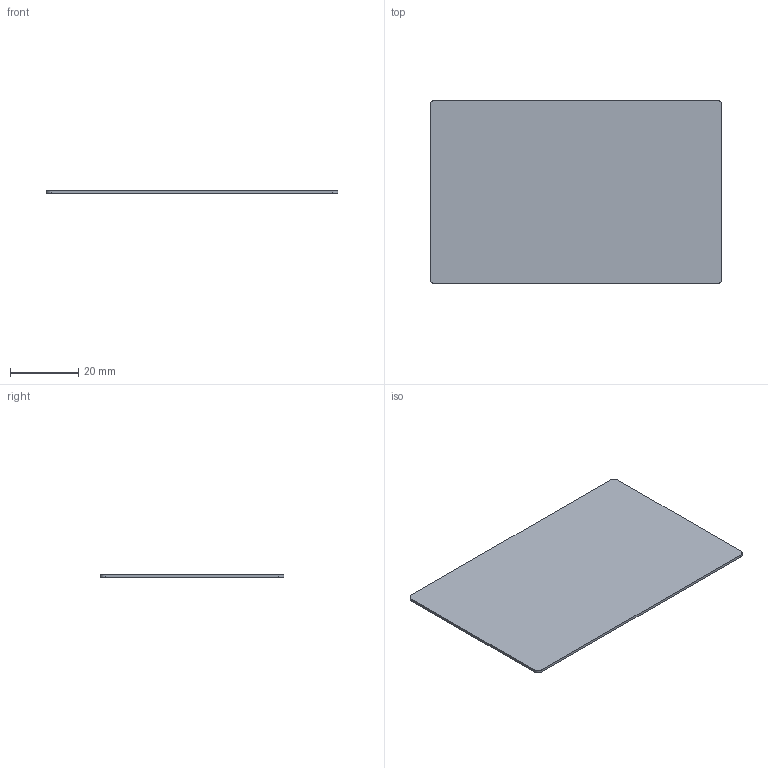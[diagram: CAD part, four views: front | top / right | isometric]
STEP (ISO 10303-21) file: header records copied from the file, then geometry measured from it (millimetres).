
FILE_DESCRIPTION(('Open CASCADE Model'),'2;1');
FILE_NAME('Open CASCADE Shape Model','2026-10-24T14:45:54',('Author'),( 'Open CASCADE'),'Open CASCADE STEP processor 7.7','Open CASCADE 7.7' ,'Unknown');
FILE_SCHEMA(('AUTOMOTIVE_DESIGN { 1 0 10303 214 1 1 1 1 }'));
Length unit declared in the file: millimetre
Products named in the file (1): Open CASCADE STEP translator 7.7 10
Bounding box: 85.6 x 53.98 x 0.76 mm (x, y, z)
Volume: 3510.3 mm3; surface area: 9447.7 mm2
Topology: 1 solids, 1 shells, 10 faces, 24 edges, 16 vertices
Faces by surface type: plane 6, cylinder 4
Entity records: 630 total; most frequent: CARTESIAN_POINT 123, DIRECTION 98, LINE 56, VECTOR 56, ORIENTED_EDGE 48, PCURVE 48, DEFINITIONAL_REPRESENTATION 48, EDGE_CURVE 24
